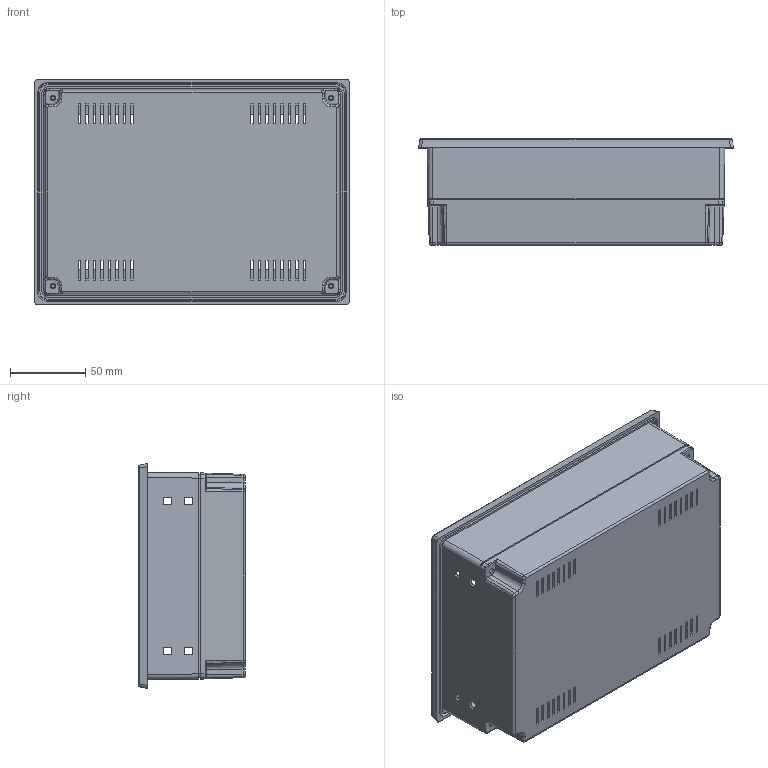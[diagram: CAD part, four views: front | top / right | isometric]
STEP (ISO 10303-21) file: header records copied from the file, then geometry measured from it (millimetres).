
FILE_DESCRIPTION (( 'STEP AP203' ), '1' );
FILE_NAME ('OP-361-A.STEP', '2025-09-05T07:34:17', ( '' ), ( '' ), 'SwSTEP 2.0', 'SolidWorks 2021', '' );
FILE_SCHEMA (( 'CONFIG_CONTROL_DESIGN' ));
Length unit declared in the file: millimetre
Products named in the file (3): OP-361-P-1; OP-360-P-1; OP-361-A
Assembly tree (2 placements, depth 2):
  OP-361-A
    OP-361-P-1
    OP-360-P-1
Bounding box: 209.7 x 70.8 x 149.7 mm (x, y, z)
Volume: 197930.5 mm3; surface area: 201290.9 mm2
Topology: 2 solids, 2 shells, 958 faces, 2639 edges, 1736 vertices
Faces by surface type: plane 632, cylinder 208, bspline 68, cone 44, torus 6
Entity records: 35463 total; most frequent: CARTESIAN_POINT 11693, ORIENTED_EDGE 5276, DIRECTION 4309, EDGE_CURVE 2638, LINE 1819, VECTOR 1819, VERTEX_POINT 1736, AXIS2_PLACEMENT_3D 1245
